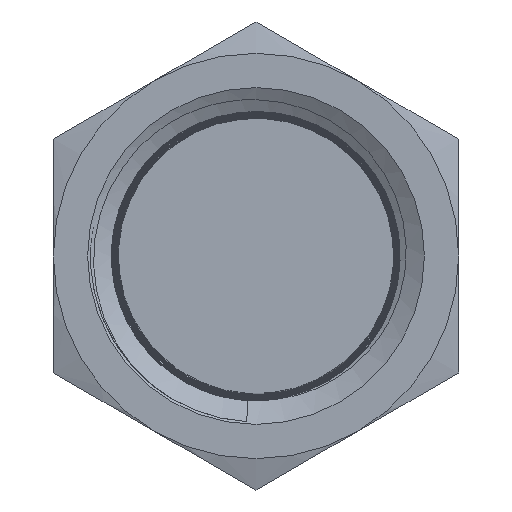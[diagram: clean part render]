
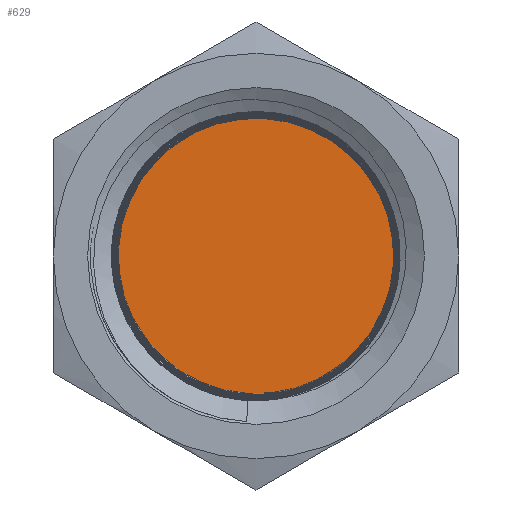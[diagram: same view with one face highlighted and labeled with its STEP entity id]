
A CAD part, left-side view. The second image highlights one B-rep face of the part: STEP entity #629.
In plain terms, the highlighted planar face has unit normal (-1, 0, 0).
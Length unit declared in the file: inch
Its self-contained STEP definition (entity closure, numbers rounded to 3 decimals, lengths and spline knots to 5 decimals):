
#629 = ADVANCED_FACE( '', ( #1294 ), #1295, .T. );
#1294 = FACE_OUTER_BOUND( '', #4769, .T. );
#1295 = PLANE( '', #4770 );
#4769 = EDGE_LOOP( '', ( #6908 ) );
#4770 = AXIS2_PLACEMENT_3D( '', #6909, #6910, #6911 );
#6908 = ORIENTED_EDGE( '', *, *, #7849, .T. );
#6909 = CARTESIAN_POINT( '', ( 0.462, 0., 0. ) );
#6910 = DIRECTION( '', ( -1., 0., 0. ) );
#6911 = DIRECTION( '', ( 0., 0., 1. ) );
#7849 = EDGE_CURVE( '', #8114, #8114, #8976, .T. );
#8114 = VERTEX_POINT( '', #9789 );
#8976 = CIRCLE( '', #12848, 0.27598 );
#9789 = CARTESIAN_POINT( '', ( 0.462, -0.25305, -0.11014 ) );
#12848 = AXIS2_PLACEMENT_3D( '', #13248, #13249, #13250 );
#13248 = CARTESIAN_POINT( '', ( 0.462, 0., 0. ) );
#13249 = DIRECTION( '', ( -1., 0., 0. ) );
#13250 = DIRECTION( '', ( 0., 0., 1. ) );
